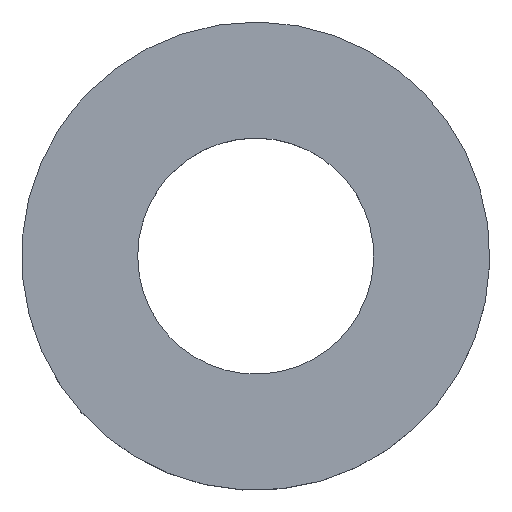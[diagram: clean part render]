
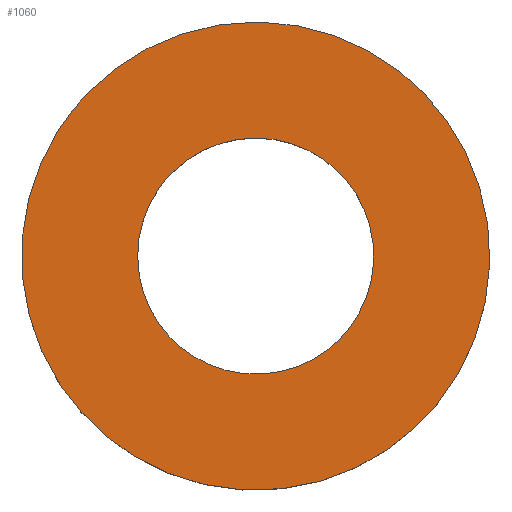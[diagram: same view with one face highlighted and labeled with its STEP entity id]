
A CAD part, top view. The second image highlights one B-rep face of the part: STEP entity #1060.
In plain terms, the highlighted free-form (B-spline) face has degree [1, 1] with [2, 2] control points.
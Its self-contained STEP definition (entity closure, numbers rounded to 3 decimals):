
#390 = CARTESIAN_POINT ('', (6.446, 13.587, 2.7));
#400 = VERTEX_POINT ('', #390);
#410 = CARTESIAN_POINT ('', (6.446, 13.587, 2.7));
#420 = CARTESIAN_POINT ('', (10.017, 17.158, 2.7));
#430 = CARTESIAN_POINT ('', (13.587, 13.587, 2.7));
#440 = CARTESIAN_POINT ('', (17.158, 10.017, 2.7));
#450 = CARTESIAN_POINT ('', (13.587, 6.446, 2.7));
#460 = CARTESIAN_POINT ('', (10.017, 2.875, 2.7));
#470 = CARTESIAN_POINT ('', (6.446, 6.446, 2.7));
#480 = CARTESIAN_POINT ('', (2.875, 10.017, 2.7));
#490 = CARTESIAN_POINT ('', (6.446, 13.587, 2.7));
#500 = (
   BOUNDED_CURVE ()
   B_SPLINE_CURVE (2, (#410, #420, #430, #440, #450, #460, #470, #480, #490), .UNSPECIFIED., .T., .U.)
   B_SPLINE_CURVE_WITH_KNOTS ((3, 2, 2, 2, 3), (0., 0.25, 0.5, 0.75, 1.), .UNSPECIFIED.)
   CURVE ()
   GEOMETRIC_REPRESENTATION_ITEM ()
   RATIONAL_B_SPLINE_CURVE ((1., 0.707, 1., 0.707, 1., 0.707, 1., 0.707, 1.))
   REPRESENTATION_ITEM ('')
);
#510 = EDGE_CURVE ('', #400, #400, #500, .T.);
#820 = CARTESIAN_POINT ('', (2.934, 17.099, 2.7));
#830 = VERTEX_POINT ('', #820);
#840 = CARTESIAN_POINT ('', (2.934, 17.099, 2.7));
#850 = CARTESIAN_POINT ('', (10.017, 24.182, 2.7));
#860 = CARTESIAN_POINT ('', (17.099, 17.099, 2.7));
#870 = CARTESIAN_POINT ('', (24.182, 10.017, 2.7));
#880 = CARTESIAN_POINT ('', (17.099, 2.934, 2.7));
#890 = CARTESIAN_POINT ('', (10.017, -4.149, 2.7));
#900 = CARTESIAN_POINT ('', (2.934, 2.934, 2.7));
#910 = CARTESIAN_POINT ('', (-4.149, 10.017, 2.7));
#920 = CARTESIAN_POINT ('', (2.934, 17.099, 2.7));
#930 = (
   BOUNDED_CURVE ()
   B_SPLINE_CURVE (2, (#840, #850, #860, #870, #880, #890, #900, #910, #920), .UNSPECIFIED., .T., .U.)
   B_SPLINE_CURVE_WITH_KNOTS ((3, 2, 2, 2, 3), (0., 18.85, 37.699, 56.549, 75.398), .UNSPECIFIED.)
   CURVE ()
   GEOMETRIC_REPRESENTATION_ITEM ()
   RATIONAL_B_SPLINE_CURVE ((1., 0.707, 1., 0.707, 1., 0.707, 1., 0.707, 1.))
   REPRESENTATION_ITEM ('')
);
#940 = EDGE_CURVE ('', #830, #830, #930, .T.);
#950 = ORIENTED_EDGE ('', *, *, #940, .F.);
#960 = EDGE_LOOP ('', (#950));
#970 = FACE_OUTER_BOUND ('', #960, .T.);
#980 = ORIENTED_EDGE ('', *, *, #510, .T.);
#990 = EDGE_LOOP ('', (#980));
#1000 = FACE_BOUND ('', #990, .T.);
#1010 = CARTESIAN_POINT ('', (10.017, -5.566, 2.7));
#1020 = CARTESIAN_POINT ('', (-5.566, 10.017, 2.7));
#1030 = CARTESIAN_POINT ('', (25.599, 10.017, 2.7));
#1040 = CARTESIAN_POINT ('', (10.017, 25.599, 2.7));
#1050 = B_SPLINE_SURFACE_WITH_KNOTS ('', 1, 1, ((#1010, #1020), (#1030, #1040)), .UNSPECIFIED., .F., .F., .U., (2, 2), (2, 2), (0., 1.), (0., 1.), .UNSPECIFIED.);
#1060 = ADVANCED_FACE ('', (#970, #1000), #1050, .T.);
